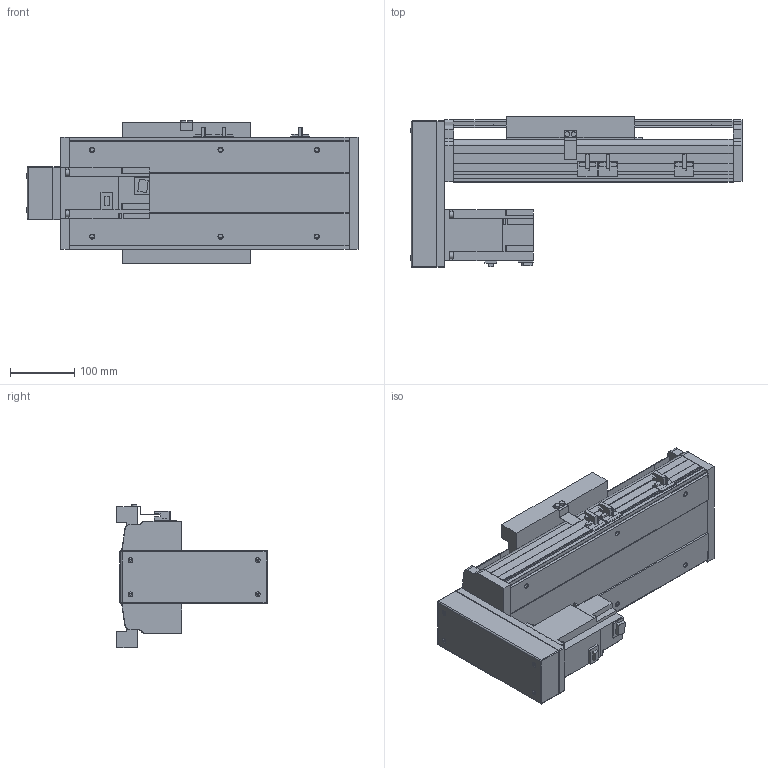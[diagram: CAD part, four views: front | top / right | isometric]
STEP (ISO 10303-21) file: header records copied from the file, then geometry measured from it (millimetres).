
FILE_DESCRIPTION(/* description */ ('STEP AP214'),/* implementation_level */ '2;1');
FILE_NAME(/* name */ 'PSS200-L10-S100-BM-T75-C1-N(0)',/* time_stamp */ '2022-06-06T04:44:08+02:00',/* author */ ('License CC BY-ND 4.0'),/* organization */ ('CADENAS'),/* preprocessor_version */ 'ST-DEVELOPER v18.102',/* originating_system */ 'PARTsolutions',/* authorisation */ ' ');
FILE_SCHEMA (('AUTOMOTIVE_DESIGN {1 0 10303 214 3 1 1}'));
Length unit declared in the file: millimetre
Products named in the file (8): PSS200-L10-S100-BM-T75-C1-N(0); PSS200-S100-BM-N_S; T75-p1; PSS200BM-N_h; PSS200-N_sensor; PSS200-BM-C1-N_sl; PSS200-N_Q; PSS200-S100-BM-C1-N_body
Assembly tree (9 placements, depth 2):
  PSS200-L10-S100-BM-T75-C1-N(0)
    PSS200-S100-BM-N_S
    T75-p1
    PSS200BM-N_h
    PSS200-N_sensor  x3
    PSS200-BM-C1-N_sl
    PSS200-N_Q
    PSS200-S100-BM-C1-N_body
Bounding box: 516.85 x 234.45 x 223.86 mm (x, y, z)
Volume: 5242481.9 mm3; surface area: 987415.5 mm2
Topology: 9 solids, 9 shells, 586 faces, 1565 edges, 1038 vertices
Faces by surface type: plane 452, cylinder 116, cone 14, sphere 4
Full cylindrical faces by diameter (mm): 4 x2, 4.5 x4, 6 x7, 6.647 x10, 7.4 x4, 8 x8, 10 x6, 25 x1, 40 x1, 67 x1
Entity records: 16312 total; most frequent: CARTESIAN_POINT 2837, DIRECTION 2687, ORIENTED_EDGE 2686, EDGE_CURVE 1343, LINE 1071, VECTOR 1071, VERTEX_POINT 926, AXIS2_PLACEMENT_3D 808
